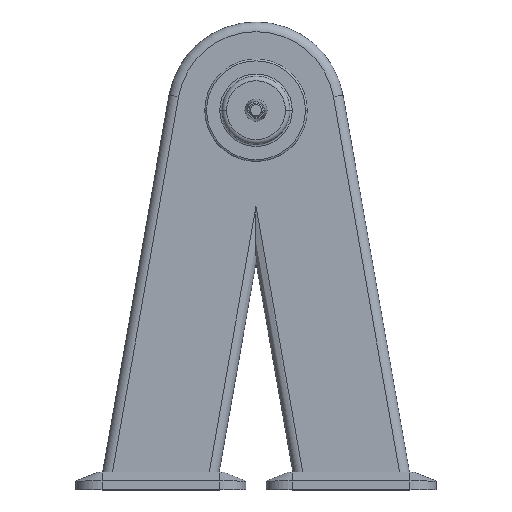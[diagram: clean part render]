
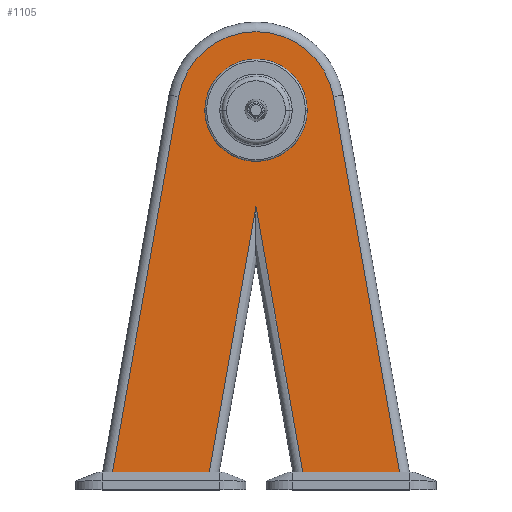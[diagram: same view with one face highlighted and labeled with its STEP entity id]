
A CAD part, top view. The second image highlights one B-rep face of the part: STEP entity #1105.
In plain terms, the highlighted planar face has unit normal (0, 0, 1).
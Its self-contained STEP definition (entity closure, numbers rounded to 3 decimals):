
#6 = LINE ( 'NONE', #3276, #2714 ) ;
#107 = CARTESIAN_POINT ( 'NONE',  ( -53.001, 20., 63. ) ) ;
#113 = AXIS2_PLACEMENT_3D ( 'NONE', #3147, #1138, #3484 ) ;
#197 = ORIENTED_EDGE ( 'NONE', *, *, #1861, .F. ) ;
#196 = CARTESIAN_POINT ( 'NONE',  ( 0., 20., 63. ) ) ;
#231 = EDGE_CURVE ( 'NONE', #3083, #2060, #793, .T. ) ;
#234 = VERTEX_POINT ( 'NONE', #107 ) ;
#420 = CARTESIAN_POINT ( 'NONE',  ( 162.667, 20., 63. ) ) ;
#433 = ORIENTED_EDGE ( 'NONE', *, *, #842, .F. ) ;
#534 = EDGE_CURVE ( 'NONE', #1792, #3083, #3901, .T. ) ;
#644 = VECTOR ( 'NONE', #2086, 1000. ) ;
#679 = DIRECTION ( 'NONE',  ( 1., 0., 0. ) ) ;
#683 = CARTESIAN_POINT ( 'NONE',  ( 0., 430., 63. ) ) ;
#793 = CIRCLE ( 'NONE', #113, 89. ) ;
#842 = EDGE_CURVE ( 'NONE', #1792, #1952, #1241, .T. ) ;
#890 = VERTEX_POINT ( 'NONE', #3253 ) ;
#913 = CIRCLE ( 'NONE', #2099, 58. ) ;
#939 = EDGE_CURVE ( 'NONE', #3961, #1952, #6, .T. ) ;
#1031 = DIRECTION ( 'NONE',  ( 1., 0., 0. ) ) ;
#1105 = ADVANCED_FACE ( 'NONE', ( #2979, #1391 ), #2688, .T. ) ;
#1138 = DIRECTION ( 'NONE',  ( 0., 0., 1. ) ) ;
#1221 = VECTOR ( 'NONE', #2039, 1000. ) ;
#1230 = LINE ( 'NONE', #3096, #644 ) ;
#1241 = LINE ( 'NONE', #196, #2126 ) ;
#1264 = DIRECTION ( 'NONE',  ( 0.174, -0.985, 0. ) ) ;
#1340 = EDGE_LOOP ( 'NONE', ( #1589, #3572, #2492, #433, #3054, #4277, #4007 ) ) ;
#1360 = CARTESIAN_POINT ( 'NONE',  ( 87.648, 445.455, 63. ) ) ;
#1391 = FACE_OUTER_BOUND ( 'NONE', #1340, .T. ) ;
#1477 = CARTESIAN_POINT ( 'NONE',  ( 0., 430., 63. ) ) ;
#1541 = VECTOR ( 'NONE', #3046, 1000. ) ;
#1564 = DIRECTION ( 'NONE',  ( -0.174, -0.985, 0. ) ) ;
#1589 = ORIENTED_EDGE ( 'NONE', *, *, #1770, .F. ) ;
#1686 = EDGE_CURVE ( 'NONE', #234, #3961, #3438, .T. ) ;
#1698 = VECTOR ( 'NONE', #1564, 1000. ) ;
#1770 = EDGE_CURVE ( 'NONE', #234, #3692, #1230, .T. ) ;
#1792 = VERTEX_POINT ( 'NONE', #420 ) ;
#1822 = DIRECTION ( 'NONE',  ( 1., 0., 0. ) ) ;
#1858 = CARTESIAN_POINT ( 'NONE',  ( -162.667, 20., 63. ) ) ;
#1861 = EDGE_CURVE ( 'NONE', #4253, #890, #913, .T. ) ;
#1869 = CARTESIAN_POINT ( 'NONE',  ( 53.001, 20., 63. ) ) ;
#1873 = CARTESIAN_POINT ( 'NONE',  ( -58., 430., 63. ) ) ;
#1952 = VERTEX_POINT ( 'NONE', #1869 ) ;
#2039 = DIRECTION ( 'NONE',  ( -0.174, 0.985, 0. ) ) ;
#2060 = VERTEX_POINT ( 'NONE', #2486 ) ;
#2086 = DIRECTION ( 'NONE',  ( -1., 0., 0. ) ) ;
#2099 = AXIS2_PLACEMENT_3D ( 'NONE', #1477, #3839, #1822 ) ;
#2126 = VECTOR ( 'NONE', #2208, 1000. ) ;
#2208 = DIRECTION ( 'NONE',  ( -1., 0., 0. ) ) ;
#2243 = ORIENTED_EDGE ( 'NONE', *, *, #3414, .F. ) ;
#2363 = EDGE_LOOP ( 'NONE', ( #197, #2243 ) ) ;
#2486 = CARTESIAN_POINT ( 'NONE',  ( -87.648, 445.455, 63. ) ) ;
#2492 = ORIENTED_EDGE ( 'NONE', *, *, #939, .T. ) ;
#2608 = LINE ( 'NONE', #3577, #1698 ) ;
#2617 = CIRCLE ( 'NONE', #3776, 58. ) ;
#2687 = CARTESIAN_POINT ( 'NONE',  ( 0., 320.583, 63. ) ) ;
#2688 = PLANE ( 'NONE',  #3791 ) ;
#2702 = DIRECTION ( 'NONE',  ( 0., 0., 1. ) ) ;
#2714 = VECTOR ( 'NONE', #1264, 1000. ) ;
#2715 = CARTESIAN_POINT ( 'NONE',  ( -10.833, 259.147, 63. ) ) ;
#2979 = FACE_BOUND ( 'NONE', #2363, .T. ) ;
#3039 = DIRECTION ( 'NONE',  ( 0., 0., 1. ) ) ;
#3046 = DIRECTION ( 'NONE',  ( 0.174, 0.985, 0. ) ) ;
#3054 = ORIENTED_EDGE ( 'NONE', *, *, #534, .T. ) ;
#3083 = VERTEX_POINT ( 'NONE', #4169 ) ;
#3096 = CARTESIAN_POINT ( 'NONE',  ( 0., 20., 63. ) ) ;
#3147 = CARTESIAN_POINT ( 'NONE',  ( 0., 430., 63. ) ) ;
#3253 = CARTESIAN_POINT ( 'NONE',  ( 58., 430., 63. ) ) ;
#3276 = CARTESIAN_POINT ( 'NONE',  ( 59.113, -14.664, 63. ) ) ;
#3414 = EDGE_CURVE ( 'NONE', #890, #4253, #2617, .T. ) ;
#3438 = LINE ( 'NONE', #2715, #1541 ) ;
#3484 = DIRECTION ( 'NONE',  ( 1., 0., 0. ) ) ;
#3572 = ORIENTED_EDGE ( 'NONE', *, *, #1686, .T. ) ;
#3577 = CARTESIAN_POINT ( 'NONE',  ( -167.588, -7.91, 63. ) ) ;
#3692 = VERTEX_POINT ( 'NONE', #1858 ) ;
#3776 = AXIS2_PLACEMENT_3D ( 'NONE', #683, #3039, #1031 ) ;
#3791 = AXIS2_PLACEMENT_3D ( 'NONE', #4026, #2702, #679 ) ;
#3839 = DIRECTION ( 'NONE',  ( 0., 0., 1. ) ) ;
#3901 = LINE ( 'NONE', #1360, #1221 ) ;
#3961 = VERTEX_POINT ( 'NONE', #2687 ) ;
#4007 = ORIENTED_EDGE ( 'NONE', *, *, #4292, .T. ) ;
#4026 = CARTESIAN_POINT ( 'NONE',  ( 0., 430., 63. ) ) ;
#4169 = CARTESIAN_POINT ( 'NONE',  ( 87.648, 445.455, 63. ) ) ;
#4253 = VERTEX_POINT ( 'NONE', #1873 ) ;
#4277 = ORIENTED_EDGE ( 'NONE', *, *, #231, .T. ) ;
#4292 = EDGE_CURVE ( 'NONE', #2060, #3692, #2608, .T. ) ;
